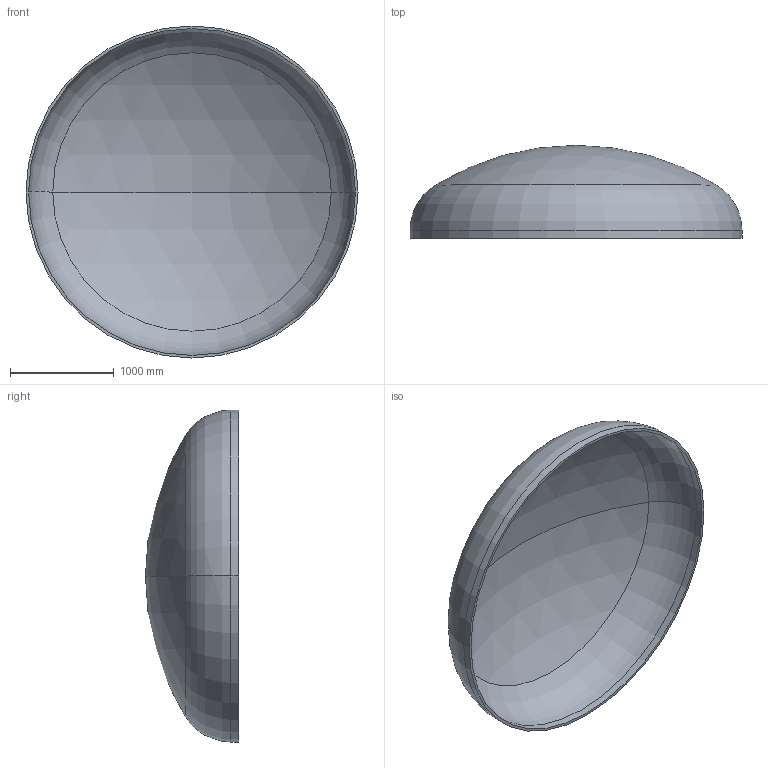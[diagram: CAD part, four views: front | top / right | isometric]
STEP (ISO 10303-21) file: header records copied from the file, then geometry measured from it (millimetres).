
FILE_DESCRIPTION (( 'STEP AP203' ), '1' );
FILE_NAME ('DIN 28013 Korbbogenform_-_Boden DIN 28013 - 3200 x 75 - I - s=25.step', '2016-07-01T18:27:07', ( '' ), ( '' ), 'SwSTEP 2.0', 'SolidWorks 2013', '' );
FILE_SCHEMA (( 'CONFIG_CONTROL_DESIGN' ));
Length unit declared in the file: millimetre
Products named in the file (1): DIN 28013 Korbbogenform_-_Boden DIN 28013 - 3200 x 75 - I - s=25
Bounding box: 3200 x 897.14 x 3200 mm (x, y, z)
Volume: 294004021 mm3; surface area: 23770985.6 mm2
Topology: 1 solids, 1 shells, 13 faces, 24 edges, 14 vertices
Faces by surface type: torus 4, cylinder 4, sphere 4, plane 1
Entity records: 407 total; most frequent: DIRECTION 72, CARTESIAN_POINT 52, ORIENTED_EDGE 48, AXIS2_PLACEMENT_3D 34, EDGE_CURVE 24, CIRCLE 20, EDGE_LOOP 14, VERTEX_POINT 14
